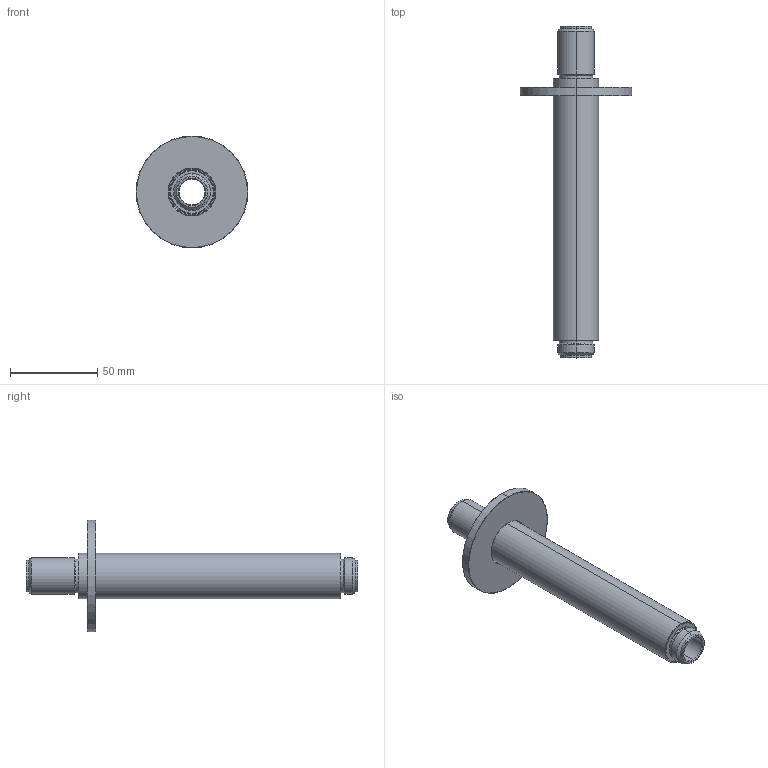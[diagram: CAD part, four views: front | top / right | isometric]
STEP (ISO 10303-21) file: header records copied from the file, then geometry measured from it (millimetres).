
FILE_DESCRIPTION((''),'2;1');
FILE_NAME('76618--00_ASM','2022-06-14T08:11:18',('sosm1'),(''),'CREO PARAMETRIC BY PTC INC, 2018190','CREO PARAMETRIC BY PTC INC, 2018190','');
FILE_SCHEMA(('CONFIG_CONTROL_DESIGN'));
Length unit declared in the file: millimetre
Products named in the file (7): 4424285; 44435--; 4424385; 44246--_ASM; 44244--; 4443300; 76618--00_ASM
Assembly tree (6 placements, depth 3):
  76618--00_ASM
    44246--_ASM
      4424285
      44435--
      4424385
    44244--
    4443300
Bounding box: 64 x 190 x 64 mm (x, y, z)
Volume: 38103.5 mm3; surface area: 38267.8 mm2
Topology: 5 solids, 5 shells, 721 faces, 1936 edges, 1264 vertices
Faces by surface type: plane 323, extrusion 278, cone 50, cylinder 40, torus 30
Entity records: 23284 total; most frequent: CARTESIAN_POINT 5989, ORIENTED_EDGE 3872, DIRECTION 2766, EDGE_CURVE 1936, VECTOR 1468, VERTEX_POINT 1264, LINE 1190, B_SPLINE_CURVE_WITH_KNOTS 834
